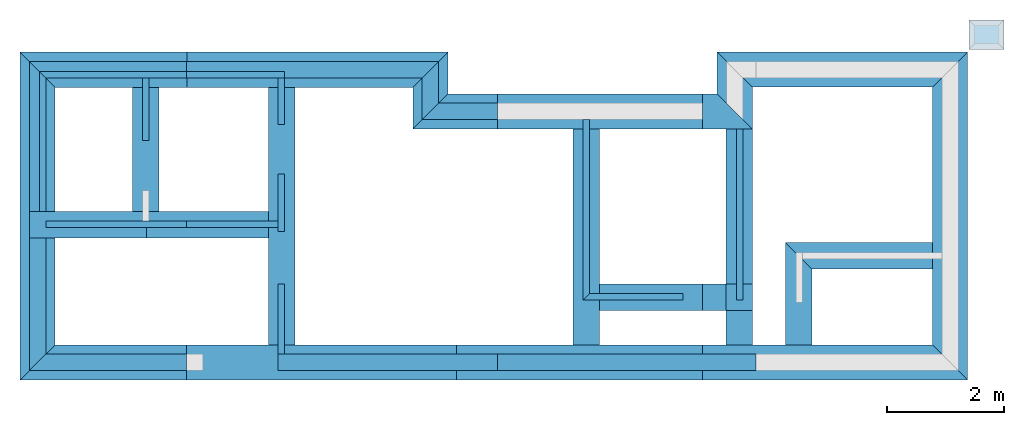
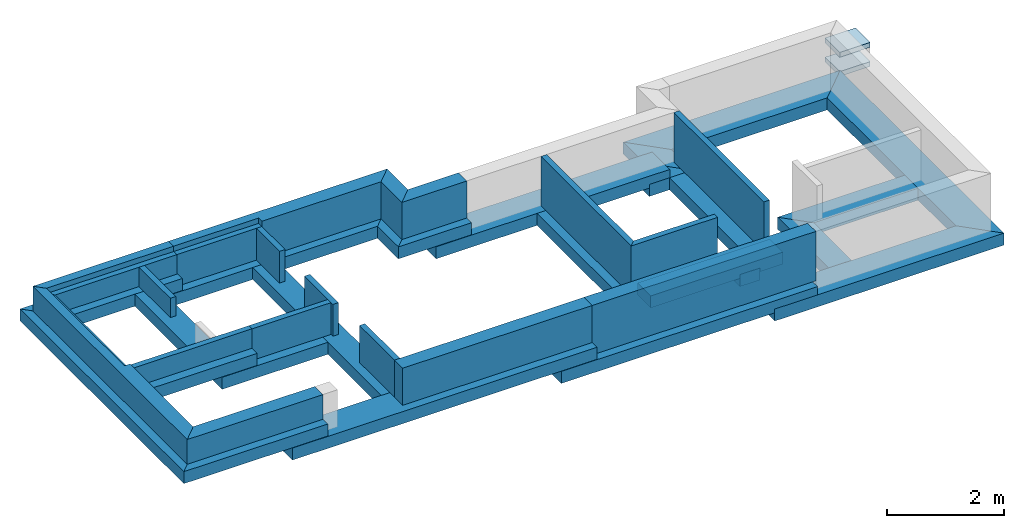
# One storey, part 1 of 2: 24 beams, 17 walls, 2 slabs.
"""IFC2X3 building model written with IfcOpenShell, lengths in millimetres."""

from ifc_helpers import new_model, entity, si_unit, converted_unit, money_unit, direction, frame, frame_2d, origin_with_axes, place, context, subcontext, project, spatial, polyline, rectangle, outline, extrude, faceted_brep, material, material_list, layer, layer_set, layer_usage, type_object, element, save


model = new_model("IFC2X3")

# Units and contexts
model_context = context("Model", 3, precision=1e-05, world=origin_with_axes(), true_north=direction((0.0, 1.0)))
body_context = subcontext(model_context, "Body", "Model", "MODEL_VIEW")
ifc_project = project(units=[si_unit("LENGTHUNIT", "METRE", prefix="MILLI"), si_unit("AREAUNIT", "SQUARE_METRE"), si_unit("VOLUMEUNIT", "CUBIC_METRE"), converted_unit("PLANEANGLEUNIT", "DEGREE", entity("IfcPlaneAngleMeasure", 0.0174532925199), si_unit("PLANEANGLEUNIT", "RADIAN"), dimensions=[0, 0, 0, 0, 0, 0, 0]), si_unit("SOLIDANGLEUNIT", "STERADIAN"), money_unit("AUD"), si_unit("TIMEUNIT", "SECOND"), si_unit("MASSUNIT", "GRAM"), si_unit("THERMODYNAMICTEMPERATUREUNIT", "DEGREE_CELSIUS"), si_unit("LUMINOUSINTENSITYUNIT", "LUMEN")], contexts=[model_context])

# Site, building, storey
site_placement = place(None, origin_with_axes())
site = spatial("IfcSite", under=ifc_project, at=site_placement, Name="Lot 1. East Hills", CompositionType="ELEMENT")
building_placement = place(site_placement, origin_with_axes())
building = spatial("IfcBuilding", under=site, at=building_placement, Name="Proposed Units 7 & 8", CompositionType="ELEMENT")
storey_placement = place(building_placement, frame((0.0, 0.0, 1750.0), z_axis=(0.0, 0.0, 1.0), x_axis=(1.0, 0.0, 0.0)))
storey = spatial("IfcBuildingStorey", under=building, at=storey_placement, Name="Foundation", CompositionType="ELEMENT", Elevation=1750.0)

# Beams
ifc_material_1 = material(Name="Concrete Reinforced")
beam_type_1 = type_object("IfcBeamType", Name="Concrete Reinforced 450 x 250", PredefinedType="NOTDEFINED")
beam_1_placement = place(storey_placement, frame((11870.0, 4113.0, 250.0), z_axis=(0.0, 0.0, 1.0), x_axis=(-1.0, 0.0, 0.0)))
element("IfcBeam", 1, at=beam_1_placement, inside=storey, type_object=beam_type_1, material=ifc_material_1, Name="FT-TYP-A06 - Concrete Reinforced - Beam******************************", ObjectType="Concrete Reinforced 450 x 250", context=body_context, shape_type="Brep", body=[
    faceted_brep([(0.0, 3677.5, 0.0), (-450.0, 3677.5, 0.0), (-450.0, 0.0, 0.0), (0.0, 0.0, 0.0), (-450.0, 3677.5, -250.0), (0.0, 3677.5, -250.0), (-450.0, 0.0, -250.0), (0.0, 0.0, -250.0)], [[[0, 1, 2, 3]], [[4, 1, 0, 5]], [[1, 4, 6, 2]], [[3, 2, 6, 7]], [[5, 0, 3, 7]], [[4, 5, 7, 6]]]),
])
beam_2_placement = place(storey_placement, frame((13110.0, 1950.08787157, 250.0), z_axis=(0.0, 0.0, 1.0), x_axis=(0.0, -1.0, 0.0)))
element("IfcBeam", 2, at=beam_2_placement, inside=storey, type_object=beam_type_1, material=ifc_material_1, Name="FT-TYP-A04 - Concrete Reinforced - Beam******************************", ObjectType="Concrete Reinforced 450 x 250", context=body_context, shape_type="Brep", body=[
    faceted_brep([(225.0, 2280.0, 0.0), (-225.0, 2280.0, 0.0), (-225.0, -225.0, 0.0), (225.0, 225.0, 0.0), (-225.0, 2280.0, -250.0), (225.0, 2280.0, -250.0), (-225.0, -225.0, -250.0), (225.0, 225.0, -250.0)], [[[0, 1, 2, 3]], [[4, 1, 0, 5]], [[1, 4, 6, 2]], [[7, 3, 2, 6]], [[5, 0, 3, 7]], [[4, 5, 7, 6]]]),
])
beam_3_placement = place(storey_placement, frame((1980.0, 5123.0, 938.0), z_axis=(0.0, 0.0, 1.0), x_axis=(-1.0, 0.0, 0.0)))
element("IfcBeam", 3, at=beam_3_placement, inside=storey, type_object=beam_type_1, material=ifc_material_1, Name="FT-TYP-A00 - Concrete Reinforced - Beam******************************", ObjectType="Concrete Reinforced 450 x 250", context=body_context, shape_type="Brep", body=[
    faceted_brep([(225.0, 2414.99999933, 0.0), (-225.0, 2414.99999933, 0.0), (-225.0, 300.0, 0.0), (225.0, 300.0, 0.0), (-225.0, 2414.99999933, -250.0), (225.0, 2414.99999933, -250.0), (-225.0, 300.0, -250.0), (225.0, 300.0, -250.0)], [[[0, 1, 2, 3]], [[4, 1, 0, 5]], [[1, 4, 6, 2]], [[3, 2, 6, 7]], [[5, 0, 3, 7]], [[4, 5, 7, 6]]]),
])
beam_4_placement = place(storey_placement, frame((0.0, 2483.00000067, 938.0), z_axis=(0.0, 0.0, 1.0), x_axis=(0.0, -1.0, 0.0)))
element("IfcBeam", 4, at=beam_4_placement, inside=storey, type_object=beam_type_1, material=ifc_material_1, Name="FT-TYP-A01 - Concrete Reinforced - Beam******************************", ObjectType="Concrete Reinforced 450 x 250", context=body_context, shape_type="Brep", body=[
    faceted_brep([(225.0, 0.0, -250.0), (225.0, 2679.99999933, -250.0), (225.0, 2679.99999933, 0.0), (225.0, 0.0, 0.0), (-225.0, 0.0, -250.0), (-225.0, 2679.99999933, -250.0), (-225.0, 2679.99999933, 0.0), (-225.0, 0.0, 0.0)], [[[0, 1, 2, 3]], [[4, 5, 1, 0]], [[5, 6, 2, 1]], [[6, 7, 3, 2]], [[7, 4, 0, 3]], [[4, 7, 6, 5]]]),
])
beam_5_placement = place(storey_placement, frame((9489.57130202, 4112.99998478, 422.0), z_axis=(0.0, 0.0, 1.0), x_axis=(-1.0, 0.0, 0.0)))
element("IfcBeam", 5, at=beam_5_placement, inside=storey, type_object=beam_type_1, material=ifc_material_1, Name="FT-TYP-A08 - Concrete Reinforced - Beam******************************", ObjectType="Concrete Reinforced 450 x 250", context=body_context, shape_type="Brep", body=[
    faceted_brep([(225.0, 3677.49998478, 0.0), (-225.0, 3677.49998478, 0.0), (-225.0, 0.0, 0.0), (225.0, 0.0, 0.0), (-225.0, 3677.49998478, -250.0), (225.0, 3677.49998478, -250.0), (-225.0, 0.0, -250.0), (225.0, 0.0, -250.0)], [[[0, 1, 2, 3]], [[4, 1, 0, 5]], [[1, 4, 6, 2]], [[2, 6, 7, 3]], [[5, 0, 3, 7]], [[4, 5, 7, 6]]]),
])
beam_6_placement = place(storey_placement, frame((9489.57130202, 1243.03317499, 422.0), z_axis=(0.0, 0.0, 1.0), x_axis=(0.0, -1.0, 0.0)))
element("IfcBeam", 6, at=beam_6_placement, inside=storey, type_object=beam_type_1, material=ifc_material_1, Name="FT-TYP-A02 - Concrete Reinforced - Beam******************************", ObjectType="Concrete Reinforced 450 x 250", context=body_context, shape_type="Brep", body=[
    faceted_brep([(-225.0, 225.0, -250.0), (-225.0, 225.0, 0.0), (-225.0, 2830.42869798, 0.0), (-225.0, 2830.42869798, -250.0), (225.0, 225.0, 0.0), (225.0, 225.0, -250.0), (225.0, 2830.42869798, 0.0), (225.0, 2830.42869798, -250.0)], [[[0, 1, 2, 3]], [[4, 1, 0, 5]], [[1, 4, 6, 2]], [[3, 2, 6, 7]], [[5, 0, 3, 7]], [[4, 5, 7, 6]]]),
])
beam_7_placement = place(storey_placement, frame((13110.0, 1950.08787157, 250.0), z_axis=(0.0, 0.0, 1.0), x_axis=(-1.0, 0.0, 0.0)))
element("IfcBeam", 7, at=beam_7_placement, inside=storey, type_object=beam_type_1, material=ifc_material_1, Name="FT-TYP-A05 - Concrete Reinforced - Beam******************************", ObjectType="Concrete Reinforced 450 x 250", context=body_context, shape_type="Brep", body=[
    faceted_brep([(225.0, 1514.58787157, 0.0), (-225.0, 1514.58787157, 0.0), (-225.0, 225.0, 0.0), (225.0, -225.0, 0.0), (-225.0, 1514.58787157, -250.0), (225.0, 1514.58787157, -250.0), (-225.0, 225.0, -250.0), (225.0, -225.0, -250.0)], [[[0, 1, 2, 3]], [[4, 1, 0, 5]], [[1, 4, 6, 2]], [[7, 3, 2, 6]], [[5, 0, 3, 7]], [[4, 5, 7, 6]]]),
])
beam_8_placement = place(storey_placement, frame((4299.99999933, 5123.0, 680.0), z_axis=(0.0, 0.0, 1.0), x_axis=(-1.0, 0.0, 0.0)))
element("IfcBeam", 8, at=beam_8_placement, inside=storey, type_object=beam_type_1, material=ifc_material_1, Name="FT-TYP-A06 - Concrete Reinforced - Beam******************************", ObjectType="Concrete Reinforced 450 x 250", context=body_context, shape_type="Brep", body=[
    faceted_brep([(225.0, 4687.5, 0.0), (-225.0, 4687.5, 0.0), (-225.0, 300.0, 0.0), (225.0, 300.0, 0.0), (-225.0, 4687.5, -250.0), (225.0, 4687.5, -250.0), (-225.0, 300.0, -250.0), (225.0, 300.0, -250.0)], [[[0, 1, 2, 3]], [[4, 1, 0, 5]], [[1, 4, 6, 2]], [[3, 2, 6, 7]], [[5, 0, 3, 7]], [[4, 5, 7, 6]]]),
])
beam_9_placement = place(storey_placement, frame((1994.11126846, 2483.00000067, 680.0), z_axis=(0.0, 0.0, 1.0), x_axis=(0.0, -1.0, 0.0)))
element("IfcBeam", 9, at=beam_9_placement, inside=storey, type_object=beam_type_1, material=ifc_material_1, Name="FT-TYP-A07 - Concrete Reinforced - Beam******************************", ObjectType="Concrete Reinforced 450 x 250", context=body_context, shape_type="Brep", body=[
    faceted_brep([(225.0, 2080.88873087, 0.0), (-225.0, 2080.88873087, 0.0), (-225.0, 0.0, 0.0), (225.0, 0.0, 0.0), (-225.0, 2080.88873087, -250.0), (225.0, 2080.88873087, -250.0), (-225.0, 0.0, -250.0), (225.0, 0.0, -250.0)], [[[0, 1, 2, 3]], [[4, 1, 0, 5]], [[1, 4, 6, 2]], [[2, 6, 7, 3]], [[5, 0, 3, 7]], [[4, 5, 7, 6]]]),
])
beam_10_placement = place(storey_placement, frame((11870.0, 1468.03317499, 250.0), z_axis=(0.0, 0.0, 1.0), x_axis=(0.0, 1.0, 0.0)))
element("IfcBeam", 10, at=beam_10_placement, inside=storey, type_object=beam_type_1, material=ifc_material_1, Name="FT-TYP-A07 - Concrete Reinforced - Beam******************************", ObjectType="Concrete Reinforced 450 x 250", context=body_context, shape_type="Brep", body=[
    faceted_brep([(-450.0, 0.0, 0.0), (0.0, 0.0, 0.0), (0.0, 394.999965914, 0.0), (-450.0, 394.999965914, 0.0), (0.0, 0.0, -250.0), (-450.0, 0.0, -250.0), (0.0, 394.999965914, -250.0), (-450.0, 394.999965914, -250.0)], [[[0, 1, 2, 3]], [[4, 1, 0, 5]], [[1, 4, 6, 2]], [[7, 3, 2, 6]], [[5, 0, 3, 7]], [[4, 5, 7, 6]]]),
])
beam_type_2 = type_object("IfcBeamType", Name="Concrete Reinforced 600 x 250", PredefinedType="NOTDEFINED")
beam_11_placement = place(storey_placement, frame((7275.0, 4712.99997318, 422.0), z_axis=(0.0, 0.0, 1.0), x_axis=(5.82456105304e-09, -1.0, 0.0)))
element("IfcBeam", 11, at=beam_11_placement, inside=storey, type_object=beam_type_2, material=ifc_material_1, Name="FT-TYP-A02 - Concrete Reinforced - Beam******************************", ObjectType="Concrete Reinforced 600 x 250", context=body_context, shape_type="SweptSolid", body=[
    extrude(rectangle(XDim=250.0, YDim=600.0, at=frame_2d((-125.0, 300.0), x_axis=(1.0, 0.0))), frame((0.0, 0.0, 0.0), z_axis=(0.0, 1.0, 0.0), x_axis=(0.0, 0.0, 1.0)), (0.0, 0.0, 1.0), 4605.0),
])
beam_12_placement = place(storey_placement, frame((15390.0, 435.5, 250.0), z_axis=(0.0, 0.0, 1.0), x_axis=(0.0, 1.0, 0.0)))
element("IfcBeam", 12, at=beam_12_placement, inside=storey, type_object=beam_type_2, material=ifc_material_1, Name="FT-TYP-A14 - Concrete Reinforced - Beam******************************", ObjectType="Concrete Reinforced 600 x 250", context=body_context, shape_type="Brep", body=[
    faceted_brep([(0.0, 3914.99996591, -250.0), (0.0, 3914.99996591, 0.0), (0.0, 0.0, 0.0), (0.0, 0.0, -250.0), (-600.0, 3914.99996591, -250.0), (-600.0, 3914.99996591, 0.0), (-600.0, -600.0, 0.0), (-600.0, -600.0, -250.0)], [[[0, 1, 2, 3]], [[0, 4, 5, 1]], [[1, 5, 6, 2]], [[3, 2, 6, 7]], [[4, 0, 3, 7]], [[5, 4, 7, 6]]]),
])
beam_13_placement = place(storey_placement, frame((11475.0000341, 4113.0, 250.0), z_axis=(0.0, 0.0, 1.0), x_axis=(0.0, -1.0, 0.0)))
element("IfcBeam", 13, at=beam_13_placement, inside=storey, type_object=beam_type_2, material=ifc_material_1, Name="FT-TYP-A10 - Concrete Reinforced - Beam******************************", ObjectType="Concrete Reinforced 600 x 250", context=body_context, shape_type="Brep", body=[
    faceted_brep([(0.0, 844.999965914, -250.0), (0.0, 844.999965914, 0.0), (0.0, 0.0, 0.0), (0.0, 0.0, -250.0), (-600.0, 244.999965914, -250.0), (-600.0, 244.999965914, 0.0), (-600.0, 0.0, 0.0), (-600.0, 0.0, -250.0)], [[[0, 1, 2, 3]], [[0, 4, 5, 1]], [[1, 5, 6, 2]], [[3, 2, 6, 7]], [[4, 0, 3, 7]], [[5, 4, 7, 6]]]),
])
beam_14_placement = place(storey_placement, frame((140.0, 5123.0, 938.0), z_axis=(0.0, 0.0, 1.0), x_axis=(-1.0, 0.0, 0.0)))
element("IfcBeam", 14, at=beam_14_placement, inside=storey, type_object=beam_type_2, material=ifc_material_1, Name="FT-TYP-B00 - Concrete Reinforced - Beam******************************", ObjectType="Concrete Reinforced 600 x 250", context=body_context, shape_type="Brep", body=[
    faceted_brep([(300.0, 5287.5, -250.0), (300.0, 5287.5, 0.0), (300.0, -300.0, 0.0), (300.0, -300.0, -250.0), (-300.0, 4687.5, -250.0), (-300.0, 4687.5, 0.0), (-300.0, 300.0, 0.0), (-300.0, 300.0, -250.0)], [[[0, 1, 2, 3]], [[0, 4, 5, 1]], [[1, 5, 6, 2]], [[3, 2, 6, 7]], [[4, 0, 3, 7]], [[5, 4, 7, 6]]]),
])
beam_15_placement = place(storey_placement, frame((140.0, 5123.0, 938.0), z_axis=(0.0, 0.0, 1.0), x_axis=(0.0, -1.0, 0.0)))
element("IfcBeam", 15, at=beam_15_placement, inside=storey, type_object=beam_type_2, material=ifc_material_1, Name="FT-TYP-B01 - Concrete Reinforced - Beam******************************", ObjectType="Concrete Reinforced 600 x 250", context=body_context, shape_type="Brep", body=[
    faceted_brep([(139.999998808, 2535.0, 0.0), (-140.0, 2535.0, 0.0), (-140.0, 2550.0, 0.0), (-300.0, 2550.0, 0.0), (-300.0, -300.0, 0.0), (300.0, 300.0, 0.0), (300.0, 2550.0, 0.0), (139.999998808, 2550.0, 0.0), (139.999998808, 2535.0, -250.0), (-140.0, 2535.0, -250.0), (-140.0, 2550.0, -250.0), (-300.0, 2550.0, -250.0), (-300.0, -300.0, -250.0), (300.0, 300.0, -250.0), (300.0, 2550.0, -250.0), (139.999998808, 2550.0, -250.0)], [[[0, 1, 2, 3, 4, 5, 6, 7]], [[1, 0, 8, 9]], [[10, 2, 1, 9]], [[2, 10, 11, 3]], [[3, 11, 12, 4]], [[13, 5, 4, 12]], [[14, 6, 5, 13]], [[15, 7, 6, 14]], [[0, 7, 15, 8]], [[8, 15, 14, 13, 12, 11, 10, 9]]]),
])
beam_16_placement = place(storey_placement, frame((6835.0, 5123.0, 680.0), z_axis=(0.0, 0.0, 1.0), x_axis=(-1.0, 0.0, 0.0)))
element("IfcBeam", 16, at=beam_16_placement, inside=storey, type_object=beam_type_2, material=ifc_material_1, Name="FT-TYP-B02 - Concrete Reinforced - Beam******************************", ObjectType="Concrete Reinforced 600 x 250", context=body_context, shape_type="Brep", body=[
    faceted_brep([(300.0, 1010.0, -250.0), (300.0, 1010.0, 0.0), (300.0, 300.0, 0.0), (300.0, 300.0, -250.0), (-300.0, 410.0, -250.0), (-300.0, 410.0, 0.0), (-300.0, -300.0, 0.0), (-300.0, -300.0, -250.0)], [[[0, 1, 2, 3]], [[0, 4, 5, 1]], [[1, 5, 6, 2]], [[3, 2, 6, 7]], [[4, 0, 3, 7]], [[5, 4, 7, 6]]]),
])
beam_17_placement = place(storey_placement, frame((6835.0, 4413.0, 680.0), z_axis=(0.0, 0.0, 1.0), x_axis=(0.0, -1.0, 0.0)))
element("IfcBeam", 17, at=beam_17_placement, inside=storey, type_object=beam_type_2, material=ifc_material_1, Name="FT-TYP-B03 - Concrete Reinforced - Beam******************************", ObjectType="Concrete Reinforced 600 x 250", context=body_context, shape_type="Brep", body=[
    faceted_brep([(300.0, 1140.0, -250.0), (300.0, 1140.0, 0.0), (300.0, -300.0, 0.0), (300.0, -300.0, -250.0), (-300.0, 1140.0, -250.0), (-300.0, 1140.0, 0.0), (-300.0, 300.0, 0.0), (-300.0, 300.0, -250.0)], [[[0, 1, 2, 3]], [[0, 4, 5, 1]], [[1, 5, 6, 2]], [[3, 2, 6, 7]], [[4, 0, 3, 7]], [[5, 4, 7, 6]]]),
])
beam_18_placement = place(storey_placement, frame((12320.0, 135.5, 422.0), z_axis=(0.0, 0.0, 1.0), x_axis=(0.0, 1.0, 0.0)))
element("IfcBeam", 18, at=beam_18_placement, inside=storey, type_object=beam_type_2, material=ifc_material_1, Name="FT-TYP-B09 - Concrete Reinforced - Beam******************************", ObjectType="Concrete Reinforced 600 x 250", context=body_context, shape_type="Brep", body=[
    faceted_brep([(-300.0, 0.0, -172.0), (300.0, 0.0, -172.0), (300.0, 0.0, 0.0), (-300.0, 0.0, 0.0), (300.0, 844.999965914, -172.0), (-300.0, 844.999965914, -172.0), (300.0, 844.999965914, -250.0), (300.0, 5045.0, -250.0), (300.0, 5045.0, 0.0), (-300.0, 5045.0, 0.0), (-300.0, 5045.0, -250.0), (-300.0, 844.999965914, -250.0)], [[[0, 1, 2, 3]], [[4, 1, 0, 5]], [[4, 6, 7, 8, 2, 1]], [[9, 3, 2, 8]], [[5, 0, 3, 9, 10, 11]], [[6, 4, 5, 11]], [[6, 11, 10, 7]], [[10, 9, 8, 7]]]),
])
beam_19_placement = place(storey_placement, frame((7975.0, 135.5, 680.0), z_axis=(0.0, 0.0, 1.0), x_axis=(0.0, 1.0, 0.0)))
element("IfcBeam", 19, at=beam_19_placement, inside=storey, type_object=beam_type_2, material=ifc_material_1, Name="FT-TYP-B11 - Concrete Reinforced - Beam******************************", ObjectType="Concrete Reinforced 600 x 250", context=body_context, shape_type="Brep", body=[
    faceted_brep([(300.0, 0.0, -250.0), (300.0, 6000.0, -250.0), (300.0, 6000.0, 0.0), (300.0, 0.0, 0.0), (-300.0, 0.0, -250.0), (-300.0, 6000.0, -250.0), (-300.0, 6000.0, 0.0), (-300.0, 0.0, 0.0)], [[[0, 1, 2, 3]], [[4, 5, 1, 0]], [[5, 6, 2, 1]], [[6, 7, 3, 2]], [[7, 4, 0, 3]], [[4, 7, 6, 5]]]),
])
beam_20_placement = place(storey_placement, frame((2675.0, 135.5, 938.0), z_axis=(0.0, 0.0, 1.0), x_axis=(0.0, 1.0, 0.0)))
element("IfcBeam", 20, at=beam_20_placement, inside=storey, type_object=beam_type_2, material=ifc_material_1, Name="FT-TYP-B12 - Concrete Reinforced - Beam******************************", ObjectType="Concrete Reinforced 600 x 250", context=body_context, shape_type="Brep", body=[
    faceted_brep([(300.0, 2235.0, -250.0), (300.0, 2235.0, 0.0), (300.0, 0.0, 0.0), (300.0, 0.0, -250.0), (-300.0, 2835.0, -250.0), (-300.0, 2835.0, 0.0), (-300.0, 0.0, 0.0), (-300.0, 0.0, -250.0)], [[[0, 1, 2, 3]], [[0, 4, 5, 1]], [[1, 5, 6, 2]], [[3, 2, 6, 7]], [[4, 0, 3, 7]], [[5, 4, 7, 6]]]),
])
beam_21_placement = place(storey_placement, frame((1990.0, 5123.0, 680.0), z_axis=(0.0, 0.0, 1.0), x_axis=(0.0, -1.0, 0.0)))
element("IfcBeam", 21, at=beam_21_placement, inside=storey, type_object=beam_type_2, material=ifc_material_1, Name="FT-TYP-B13 - Concrete Reinforced - Beam******************************", ObjectType="Concrete Reinforced 600 x 250", context=body_context, shape_type="Brep", body=[
    faceted_brep([(300.0, 4545.0, -250.0), (300.0, 4545.0, 0.0), (300.0, 0.0, 0.0), (300.0, 0.0, -250.0), (-300.0, 5145.0, -250.0), (-300.0, 5145.0, 0.0), (-300.0, 0.0, 0.0), (-300.0, 0.0, -250.0)], [[[0, 1, 2, 3]], [[0, 4, 5, 1]], [[1, 5, 6, 2]], [[3, 2, 6, 7]], [[4, 0, 3, 7]], [[5, 4, 7, 6]]]),
])
beam_22_placement = place(storey_placement, frame((15390.0, 4825.5, 250.0), z_axis=(0.0, 0.0, 1.0), x_axis=(-1.0, 0.0, 0.0)))
element("IfcBeam", 22, at=beam_22_placement, inside=storey, type_object=beam_type_2, material=ifc_material_1, Name="FT-TYP-A13 - Concrete Reinforced - Beam******************************", ObjectType="Concrete Reinforced 600 x 250", context=body_context, shape_type="Brep", body=[
    faceted_brep([(0.0, 4390.0, -250.0), (0.0, 4390.0, 0.0), (0.0, 0.0, 0.0), (0.0, 0.0, -250.0), (-600.0, 4990.0, -250.0), (-600.0, 4990.0, 0.0), (-600.0, -600.0, 0.0), (-600.0, -600.0, -250.0)], [[[0, 1, 2, 3]], [[0, 4, 5, 1]], [[1, 5, 6, 2]], [[3, 2, 6, 7]], [[4, 0, 3, 7]], [[5, 4, 7, 6]]]),
])
beam_23_placement = place(storey_placement, frame((12320.0, 4113.0, 250.0), z_axis=(0.0, 0.0, 1.0), x_axis=(1.0, 0.0, 0.0)))
element("IfcBeam", 23, at=beam_23_placement, inside=storey, type_object=beam_type_2, material=ifc_material_1, Name="FT-TYP-A11 - Concrete Reinforced - Beam******************************", ObjectType="Concrete Reinforced 600 x 250", context=body_context, shape_type="Brep", body=[
    faceted_brep([(0.0, 712.5, -250.0), (0.0, 712.5, 0.0), (0.0, 0.0, 0.0), (0.0, 0.0, -250.0), (-600.0, 1312.5, -250.0), (-600.0, 1312.5, 0.0), (-600.0, 600.0, 0.0), (-600.0, 600.0, -250.0)], [[[0, 1, 2, 3]], [[0, 4, 5, 1]], [[1, 5, 6, 2]], [[3, 2, 6, 7]], [[4, 0, 3, 7]], [[5, 4, 7, 6]]]),
])
beam_24_placement = place(storey_placement, frame((12320.0, 4825.5, 250.0), z_axis=(0.0, 0.0, 1.0), x_axis=(0.0, -1.0, 0.0)))
element("IfcBeam", 24, at=beam_24_placement, inside=storey, type_object=beam_type_2, material=ifc_material_1, Name="FT-TYP-A12 - Concrete Reinforced - Beam******************************", ObjectType="Concrete Reinforced 600 x 250", context=body_context, shape_type="Brep", body=[
    faceted_brep([(0.0, 3070.0, -250.0), (0.0, 3070.0, 0.0), (0.0, 0.0, 0.0), (0.0, 0.0, -250.0), (-600.0, 3670.0, -250.0), (-600.0, 3670.0, 0.0), (-600.0, -600.0, 0.0), (-600.0, -600.0, -250.0)], [[[0, 1, 2, 3]], [[0, 4, 5, 1]], [[1, 5, 6, 2]], [[3, 2, 6, 7]], [[4, 0, 3, 7]], [[5, 4, 7, 6]]]),
])

# Slabs
ifc_layer_1 = layer(ifc_material_1, 100.0, ventilated="UNKNOWN")
ifc_layer_set_1 = layer_set([ifc_layer_1], Name="Concrete Reinforced 100")
ifc_layer_usage_1 = layer_usage(ifc_layer_set_1, "AXIS3", "NEGATIVE", 100.0)
slab_type = type_object("IfcSlabType", Name="Concrete Reinforced 100", PredefinedType="FLOOR")
slab_1_placement = place(storey_placement, frame((16009.3673149, 5470.83832056, 186.990683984), z_axis=(0.0, 0.0, 1.0), x_axis=(1.0, 0.0, 0.0)))
element("IfcSlab", 25, at=slab_1_placement, inside=storey, type_object=slab_type, material=ifc_layer_usage_1, Name="Slab-G09 Concrete Reinforced Slab", PredefinedType="FLOOR", context=body_context, shape_type="SweptSolid", body=[
    extrude(outline(polyline([(0.0, 0.0), (600.0, 0.0), (600.0, 500.0), (0.0, 500.0), (0.0, 0.0)])), frame((0.0, 0.0, -100.0), z_axis=(0.0, 0.0, 1.0), x_axis=(1.0, 0.0, 0.0)), (0.0, 0.0, 1.0), 100.0),
])
ifc_layer_usage_2 = layer_usage(ifc_layer_set_1, "AXIS3", "NEGATIVE", 100.0)
slab_2_placement = place(storey_placement, frame((16009.3673149, 5470.83832056, 586.990683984), z_axis=(0.0, 0.0, 1.0), x_axis=(1.0, 0.0, 0.0)))
element("IfcSlab", 26, at=slab_2_placement, inside=storey, type_object=slab_type, material=ifc_layer_usage_2, Name="Slab-G09 Concrete Reinforced Slab", PredefinedType="FLOOR", context=body_context, shape_type="SweptSolid", body=[
    extrude(outline(polyline([(0.0, 0.0), (600.0, 0.0), (600.0, 500.0), (0.0, 500.0), (0.0, 0.0)])), frame((0.0, 0.0, -100.0), z_axis=(0.0, 0.0, 1.0), x_axis=(1.0, 0.0, 0.0)), (0.0, 0.0, 1.0), 100.0),
])

# Walls
ifc_material_2 = material(Name="Brickwork Faced")
ifc_material_3 = material(Name="Cavity")
ifc_material_4 = material(Name="Brick Common")
ifc_material_list_1 = material_list([ifc_material_2, ifc_material_3, ifc_material_4])
wall_type_1 = type_object("IfcWallType", Name="Cavity wall 280 Foundation 280", PredefinedType="NOTDEFINED")
wall_1_placement = place(storey_placement, frame((0.0, -2.0, 938.0), z_axis=(0.0, 0.0, 1.0), x_axis=(1.0, 0.0, 0.0)))
element("IfcWall", 27, at=wall_1_placement, inside=storey, type_object=wall_type_1, material=ifc_material_list_1, Name="RET-WALL-F06 Cavity wall 280 Foundation Wall", context=body_context, shape_type="Brep", body=[
    faceted_brep([(279.999998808, 279.999998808, 0.0), (279.999998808, 279.999998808, 514.0), (2674.99999218, 279.999998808, 514.0), (2674.99999218, 279.999998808, 0.0), (0.0, 0.0, 514.0), (0.0, 0.0, 0.0), (2674.99999218, 0.0, 514.0), (2674.99999218, 0.0, 0.0)], [[[0, 1, 2, 3]], [[4, 1, 0, 5]], [[1, 4, 6, 2]], [[3, 2, 6, 7]], [[5, 0, 3, 7]], [[4, 5, 7, 6]]]),
])
wall_2_placement = place(storey_placement, frame((6974.99997935, 5263.0, 680.0), z_axis=(0.0, 0.0, 1.0), x_axis=(-1.0, 0.0, 0.0)))
element("IfcWall", 28, at=wall_2_placement, inside=storey, type_object=wall_type_1, material=ifc_material_list_1, Name="RET-WALL-F11 Cavity wall 280 Foundation Wall", context=body_context, shape_type="Brep", body=[
    faceted_brep([(2624.99998061, 169.999999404, 772.0), (2624.99998061, 279.999998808, 772.0), (279.999998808, 279.999998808, 772.0), (0.0, 0.0, 772.0), (4299.99997935, 0.0, 772.0), (4299.99997935, 169.999999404, 772.0), (2624.99998061, 169.999999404, 662.0), (2624.99998061, 279.999998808, 662.0), (4299.99997935, 279.999998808, 662.0), (4299.99997935, 279.999998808, 0.0), (279.999998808, 279.999998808, 0.0), (0.0, 0.0, 0.0), (4299.99997935, 0.0, 0.0), (4299.99997935, 169.999999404, 662.0)], [[[0, 1, 2, 3, 4, 5]], [[1, 0, 6, 7]], [[7, 8, 9, 10, 2, 1]], [[3, 2, 10, 11]], [[3, 11, 12, 4]], [[13, 5, 4, 12, 9, 8]], [[0, 5, 13, 6]], [[8, 7, 6, 13]], [[11, 10, 9, 12]]]),
])
wall_3_placement = place(storey_placement, frame((6974.99997935, 5263.0, 680.0), z_axis=(0.0, 0.0, 1.0), x_axis=(0.0, -1.0, 0.0)))
element("IfcWall", 29, at=wall_3_placement, inside=storey, type_object=wall_type_1, material=ifc_material_list_1, Name="RET-WALL-F13 Cavity wall 280 Foundation Wall", context=body_context, shape_type="Brep", body=[
    faceted_brep([(989.999998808, -279.999998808, 772.0), (710.0, 0.0, 772.0), (0.0, 0.0, 772.0), (279.999998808, -279.999998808, 772.0), (989.999998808, -279.999998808, 0.0), (710.0, 0.0, 0.0), (0.0, 0.0, 0.0), (279.999998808, -279.999998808, 0.0)], [[[0, 1, 2, 3]], [[1, 0, 4, 5]], [[1, 5, 6, 2]], [[3, 2, 6, 7]], [[4, 0, 3, 7]], [[5, 4, 7, 6]]]),
])
wall_4_placement = place(storey_placement, frame((2675.0, 5263.0, 938.0), z_axis=(0.0, 0.0, 1.0), x_axis=(-1.0, 0.0, 0.0)))
element("IfcWall", 30, at=wall_4_placement, inside=storey, type_object=wall_type_1, material=ifc_material_list_1, Name="RET-WALL-F12 Cavity wall 280 Foundation Wall", context=body_context, shape_type="Brep", body=[
    faceted_brep([(2505.0000006, 169.999999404, 514.0), (0.0, 169.999999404, 514.0), (0.0, 0.0, 514.0), (2675.0, 0.0, 514.0), (0.0, 169.999999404, 404.0), (2505.0000006, 169.999999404, 404.0), (0.0, 279.999998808, 404.0), (0.0, 279.999998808, 0.0), (0.0, 0.0, 0.0), (2675.0, 0.0, 0.0), (2395.00000119, 279.999998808, 0.0), (2395.00000119, 279.999998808, 404.0)], [[[0, 1, 2, 3]], [[4, 1, 0, 5]], [[4, 6, 7, 8, 2, 1]], [[9, 3, 2, 8]], [[5, 0, 3, 9, 10, 11]], [[6, 4, 5, 11]], [[6, 11, 10, 7]], [[10, 9, 8, 7]]]),
])
wall_5_placement = place(storey_placement, frame((7975.0, 4553.0, 680.0), z_axis=(0.0, 0.0, 1.0), x_axis=(-1.0, 0.0, 0.0)))
element("IfcWall", 31, at=wall_5_placement, inside=storey, type_object=wall_type_1, material=ifc_material_list_1, Name="RET-WALL-F01 Cavity wall 280 Foundation Wall", context=body_context, shape_type="Brep", body=[
    faceted_brep([(1000.00002065, 0.0, 0.0), (1000.00002065, 0.0, 772.0), (0.0, 0.0, 772.0), (0.0, 0.0, 0.0), (1280.00001946, 279.999998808, 772.0), (1280.00001946, 279.999998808, 0.0), (0.0, 279.999998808, 772.0), (0.0, 279.999998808, 0.0)], [[[0, 1, 2, 3]], [[4, 1, 0, 5]], [[1, 4, 6, 2]], [[6, 7, 3, 2]], [[5, 0, 3, 7]], [[4, 5, 7, 6]]]),
])
wall_6_placement = place(storey_placement, frame((7975.0, -2.0, 422.0), z_axis=(0.0, 0.0, 1.0), x_axis=(1.0, 0.0, 0.0)))
element("IfcWall", 32, at=wall_6_placement, inside=storey, type_object=wall_type_1, material=ifc_material_list_1, Name="RET-WALL-F08 Cavity wall 280 Foundation Wall", context=body_context, shape_type="Brep", body=[
    faceted_brep([(0.0, 0.0, 0.0), (4405.0, 0.0, 0.0), (4405.0, 0.0, 1030.0), (0.0, 0.0, 1030.0), (0.0, 279.999998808, 0.0), (4405.0, 279.999998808, 0.0), (4405.0, 279.999998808, 1030.0), (0.0, 279.999998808, 1030.0)], [[[0, 1, 2, 3]], [[4, 5, 1, 0]], [[5, 6, 2, 1]], [[6, 7, 3, 2]], [[7, 4, 0, 3]], [[4, 7, 6, 5]]]),
])
wall_7_placement = place(storey_placement, frame((4239.99999933, -2.0, 680.0), z_axis=(0.0, 0.0, 1.0), x_axis=(1.0, 0.0, 0.0)))
element("IfcWall", 33, at=wall_7_placement, inside=storey, type_object=wall_type_1, material=ifc_material_list_1, Name="RET-WALL-F07 Cavity wall 280 Foundation Wall", context=body_context, shape_type="Brep", body=[
    faceted_brep([(0.0, 0.0, 0.0), (3735.00000067, 0.0, 0.0), (3735.00000067, 0.0, 772.0), (0.0, 0.0, 772.0), (0.0, 279.999998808, 0.0), (3735.00000067, 279.999998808, 0.0), (3735.00000067, 279.999998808, 772.0), (0.0, 279.999998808, 772.0)], [[[0, 1, 2, 3]], [[4, 5, 1, 0]], [[5, 6, 2, 1]], [[6, 7, 3, 2]], [[7, 4, 0, 3]], [[4, 7, 6, 5]]]),
])
wall_8_placement = place(storey_placement, frame((0.0, 5263.0, 938.0), z_axis=(0.0, 0.0, 1.0), x_axis=(0.0, -1.0, 0.0)))
element("IfcWall", 34, at=wall_8_placement, inside=storey, type_object=wall_type_1, material=ifc_material_list_1, Name="RET-WALL-F10 Cavity wall 280 Foundation Wall", context=body_context, shape_type="Brep", body=[
    faceted_brep([(169.999999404, 169.999999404, 514.0), (169.999999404, 169.999999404, 404.0), (279.999998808, 279.999998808, 404.0), (279.999998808, 279.999998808, 0.0), (0.0, 0.0, 0.0), (0.0, 0.0, 514.0), (2829.99999873, 169.999999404, 514.0), (2829.99999873, 169.999999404, 404.0), (2829.99999873, 279.999998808, 404.0), (2829.99999873, 279.999998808, 514.0), (4985.00000119, 279.999998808, 514.0), (4985.00000119, 279.999998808, 0.0), (5265.0, 0.0, 0.0), (5265.0, 0.0, 514.0)], [[[0, 1, 2, 3, 4, 5]], [[0, 6, 7, 1]], [[8, 2, 1, 7]], [[8, 9, 10, 11, 3, 2]], [[11, 12, 4, 3]], [[12, 13, 5, 4]], [[6, 0, 5, 13, 10, 9]], [[6, 9, 8, 7]], [[10, 13, 12, 11]]]),
])
ifc_material_list_2 = material_list([ifc_material_4])
wall_type_2 = type_object("IfcWallType", Name="Solid Brick Foundation 110", PredefinedType="NOTDEFINED")
wall_9_placement = place(storey_placement, frame((4349.99999933, -2.0, 682.0), z_axis=(0.0, 0.0, 1.0), x_axis=(0.0, 1.0, 0.0)))
element("IfcWall", 35, at=wall_9_placement, inside=storey, type_object=wall_type_2, material=ifc_material_list_2, Name="INT-WALLG03 Solid Brick Foundation Wall", context=body_context, shape_type="Brep", body=[
    faceted_brep([(279.999998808, 110.0, 770.0), (279.999998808, 0.0, 770.0), (1471.4717842, 0.0, 770.0), (1471.4717842, 109.999999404, 770.0), (279.999998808, 0.0, 0.0), (279.999998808, 110.0, 0.0), (1471.4717842, 0.0, 0.0), (1471.4717842, 109.999999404, 0.0)], [[[0, 1, 2, 3]], [[4, 1, 0, 5]], [[1, 4, 6, 2]], [[7, 3, 2, 6]], [[5, 0, 3, 7]], [[4, 5, 7, 6]]]),
])
wall_10_placement = place(storey_placement, frame((9434.99999955, 4553.0, 422.0), z_axis=(0.0, 0.0, 1.0), x_axis=(0.0, -1.0, 0.0)))
element("IfcWall", 36, at=wall_10_placement, inside=storey, type_object=wall_type_2, material=ifc_material_list_2, Name="INT-WALLG04 Solid Brick Foundation Wall", context=body_context, shape_type="Brep", body=[
    faceted_brep([(3354.99999955, 0.0, 1030.0), (3245.00000015, 109.999999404, 1030.0), (279.999998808, 109.999999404, 1030.0), (279.999998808, 0.0, 1030.0), (3354.99999955, 0.0, 0.0), (3245.00000015, 109.999999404, 0.0), (279.999998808, 109.999999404, 0.0), (279.999998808, 0.0, 0.0)], [[[0, 1, 2, 3]], [[1, 0, 4, 5]], [[1, 5, 6, 2]], [[3, 2, 6, 7]], [[4, 0, 3, 7]], [[5, 4, 7, 6]]]),
])
wall_11_placement = place(storey_placement, frame((9434.99999955, 1198.00000045, 422.0), z_axis=(0.0, 0.0, 1.0), x_axis=(1.0, 0.0, 0.0)))
element("IfcWall", 37, at=wall_11_placement, inside=storey, type_object=wall_type_2, material=ifc_material_list_2, Name="INT-WALLG05 Solid Brick Foundation Wall", context=body_context, shape_type="Brep", body=[
    faceted_brep([(109.999999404, 109.999999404, 0.0), (109.999999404, 109.999999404, 1030.0), (1705.0, 109.999999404, 1030.0), (1705.0, 109.999999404, 0.0), (0.0, 0.0, 1030.0), (0.0, 0.0, 0.0), (1705.0, 0.0, 1030.0), (1705.0, 0.0, 0.0)], [[[0, 1, 2, 3]], [[4, 1, 0, 5]], [[1, 4, 6, 2]], [[3, 2, 6, 7]], [[5, 0, 3, 7]], [[4, 5, 7, 6]]]),
])
ifc_layer_2 = layer(ifc_material_4, 109.999999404, ventilated="UNKNOWN")
ifc_layer_set_2 = layer_set([ifc_layer_2], Name="Solid Brick Foundation")
ifc_layer_usage_3 = layer_usage(ifc_layer_set_2, "AXIS2", "POSITIVE", 0.0)
wall_12_placement = place(storey_placement, frame((12160.0, 1198.00000045, 422.0), z_axis=(0.0, 0.0, 1.0), x_axis=(0.0, 1.0, 0.0)))
element("IfcWallStandardCase", 38, at=wall_12_placement, inside=storey, type_object=wall_type_2, material=ifc_layer_usage_3, Name="INT-WALLG07 Solid Brick Foundation Wall", context=body_context, shape_type="SweptSolid", body=[
    extrude(outline(polyline([(0.0, 0.0), (3075.00000022, 0.0), (3075.00000022, 109.999999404), (0.0, 109.999999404), (0.0, 0.0)])), origin_with_axes(), (0.0, 0.0, 1.0), 1030.0),
])
wall_13_placement = place(storey_placement, frame((2679.99999933, 2433.00000067, 682.0), z_axis=(0.0, 0.0, 1.0), x_axis=(1.0, 0.0, 0.0)))
element("IfcWall", 39, at=wall_13_placement, inside=storey, type_object=wall_type_2, material=ifc_material_list_2, Name="INT-WALLG02 Solid Brick Foundation Wall", context=body_context, shape_type="Brep", body=[
    faceted_brep([(1560.0000006, 0.0, 660.0), (1560.0000006, 109.999999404, 660.0), (0.0, 109.999999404, 660.0), (0.0, 0.0, 660.0), (1560.0000006, 109.999999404, 0.0), (1560.0000006, 0.0, 0.0), (0.0, 109.999999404, 0.0), (0.0, 0.0, 0.0)], [[[0, 1, 2, 3]], [[4, 1, 0, 5]], [[1, 4, 6, 2]], [[2, 6, 7, 3]], [[5, 0, 3, 7]], [[4, 5, 7, 6]]]),
])
wall_14_placement = place(storey_placement, frame((0.0, 2433.00000067, 938.0), z_axis=(0.0, 0.0, 1.0), x_axis=(1.0, 0.0, 0.0)))
element("IfcWall", 40, at=wall_14_placement, inside=storey, type_object=wall_type_2, material=ifc_material_list_2, Name="INT-WALLG02 Solid Brick Foundation Wall", context=body_context, shape_type="Brep", body=[
    faceted_brep([(279.999998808, 109.999999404, 0.0), (279.999998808, 109.999999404, 404.0), (2679.99999933, 109.999999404, 404.0), (2679.99999933, 109.999999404, 0.0), (279.999998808, 0.0, 404.0), (279.999998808, 0.0, 0.0), (2679.99999933, 0.0, 404.0), (2679.99999933, 0.0, 0.0)], [[[0, 1, 2, 3]], [[4, 1, 0, 5]], [[1, 4, 6, 2]], [[3, 2, 6, 7]], [[5, 0, 3, 7]], [[4, 5, 7, 6]]]),
])
wall_15_placement = place(storey_placement, frame((4349.99999933, 2369.47095769, 682.0), z_axis=(0.0, 0.0, 1.0), x_axis=(0.0, 1.0, 0.0)))
element("IfcWall", 41, at=wall_15_placement, inside=storey, type_object=wall_type_2, material=ifc_material_list_2, Name="INT-WALLG03 Solid Brick Foundation Wall", context=body_context, shape_type="Brep", body=[
    faceted_brep([(0.0, 0.0, 0.0), (973.919719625, 0.0, 0.0), (973.919719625, 0.0, 660.0), (0.0, 0.0, 660.0), (0.0, 109.999999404, 0.0), (973.919719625, 109.999999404, 0.0), (973.919719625, 109.999999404, 660.0), (0.0, 109.999999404, 660.0)], [[[0, 1, 2, 3]], [[4, 5, 1, 0]], [[5, 6, 2, 1]], [[6, 7, 3, 2]], [[7, 4, 0, 3]], [[4, 7, 6, 5]]]),
])
wall_16_placement = place(storey_placement, frame((2039.9999994, 3915.55070091, 938.0), z_axis=(0.0, 0.0, 1.0), x_axis=(0.0, 1.0, 0.0)))
element("IfcWall", 42, at=wall_16_placement, inside=storey, type_object=wall_type_2, material=ifc_material_list_2, Name="INT-WALLG02 Solid Brick Foundation Wall", context=body_context, shape_type="Brep", body=[
    faceted_brep([(1067.44930029, 0.0, 0.0), (1067.44930029, 0.0, 404.0), (0.0, 0.0, 404.0), (0.0, 0.0, 0.0), (1067.44930029, 109.999999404, 404.0), (1067.44930029, 109.999999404, 0.0), (0.0, 109.999999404, 404.0), (0.0, 109.999999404, 0.0)], [[[0, 1, 2, 3]], [[4, 1, 0, 5]], [[1, 4, 6, 2]], [[6, 7, 3, 2]], [[5, 0, 3, 7]], [[4, 5, 7, 6]]]),
])
wall_17_placement = place(storey_placement, frame((4349.99999933, 4193.00000067, 682.0), z_axis=(0.0, 0.0, 1.0), x_axis=(0.0, 1.0, 0.0)))
element("IfcWall", 43, at=wall_17_placement, inside=storey, type_object=wall_type_2, material=ifc_material_list_2, Name="INT-WALLG03 Solid Brick Foundation Wall", context=body_context, shape_type="Brep", body=[
    faceted_brep([(790.000000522, 0.0, 0.0), (790.000000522, 0.0, 660.0), (0.0, 0.0, 660.0), (0.0, 0.0, 0.0), (790.000000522, 109.999999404, 660.0), (790.000000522, 109.999999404, 0.0), (0.0, 109.999999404, 660.0), (0.0, 109.999999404, 0.0)], [[[0, 1, 2, 3]], [[4, 1, 0, 5]], [[1, 4, 6, 2]], [[6, 7, 3, 2]], [[5, 0, 3, 7]], [[4, 5, 7, 6]]]),
])

save(model, "model.ifc")
